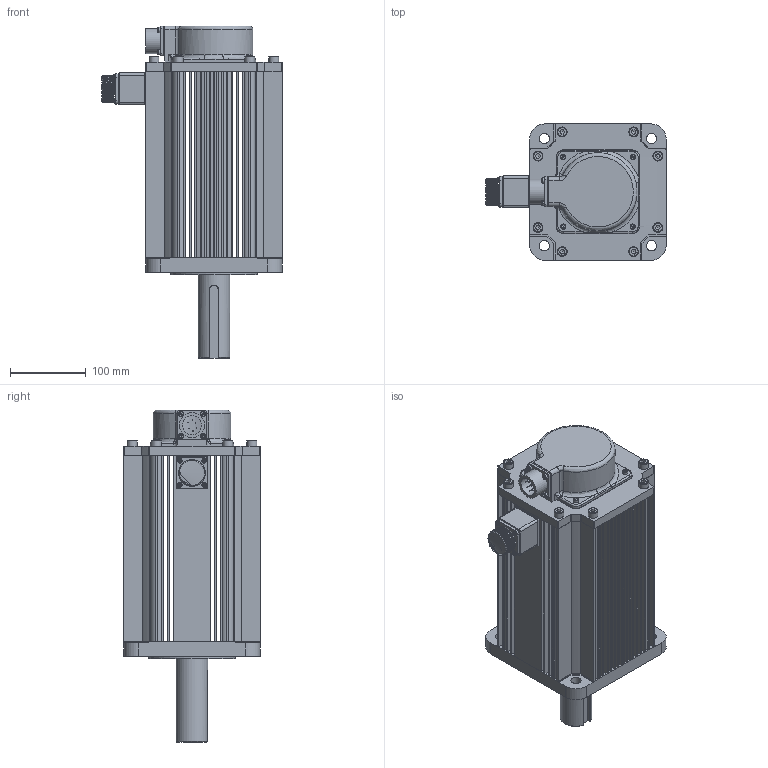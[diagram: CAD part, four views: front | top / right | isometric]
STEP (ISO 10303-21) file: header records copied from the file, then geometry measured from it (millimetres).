
FILE_DESCRIPTION (( 'STEP AP214' ), '1' );
FILE_NAME ('MS6H-48015B.STEP', '2020-04-30T01:17:23', ( '微软用户' ), ( '微软中国' ), 'SwSTEP 2.0', 'SolidWorks 2016', '' );
FILE_SCHEMA (( 'AUTOMOTIVE_DESIGN' ));
Products named in the file (1): MS6H-48015B
Bounding box: 237.9 x 180 x 438 mm (x, y, z)
Surface area: 489940.7 mm2 (no closed solid volume)
Topology: 0 solids, 71 shells, 880 faces, 2653 edges, 1803 vertices
Faces by surface type: plane 484, cylinder 244, bspline 89, cone 51, torus 8, sphere 4
Full cylindrical faces by diameter (mm): 1 x6, 2 x1, 5 x4, 6 x4, 7 x8, 13 x10, 13.5 x4, 14 x1, 15 x8, 25 x1, 33 x2, 35 x1, 42 x1, 45 x1, 62 x1, 114.3 x1, 130 x1, 160 x1
Entity records: 64689 total; most frequent: CARTESIAN_POINT 42773, DIRECTION 4266, ORIENTED_EDGE 4099, EDGE_CURVE 2471, VERTEX_POINT 1747, VECTOR 1502, LINE 1502, AXIS2_PLACEMENT_3D 1382
